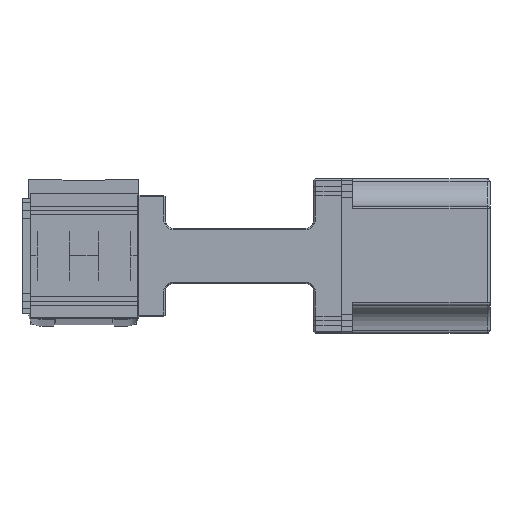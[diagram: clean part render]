
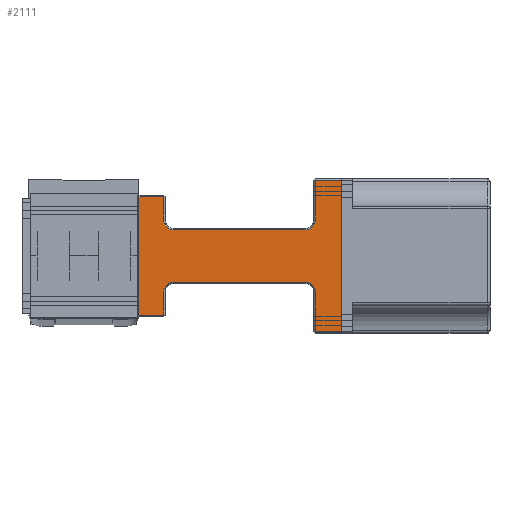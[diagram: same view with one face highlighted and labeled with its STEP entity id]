
A CAD part, top view. The second image highlights one B-rep face of the part: STEP entity #2111.
In plain terms, the highlighted planar face has unit normal (0, 0, 1).
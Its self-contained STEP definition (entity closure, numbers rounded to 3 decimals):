
#2043 = EDGE_LOOP ( 'NONE', ( #2114, #2117, #2112, #2094, #2096, #2099, #2102, #2106, #2169, #2101, #2172, #2091, #2159, #2097, #2164, #2162 ) ) ;
#2048 = VERTEX_POINT ( 'NONE', #7797 ) ;
#2054 = EDGE_CURVE ( 'NONE', #2108, #2109, #7779, .T. ) ;
#2090 = VERTEX_POINT ( 'NONE', #7911 ) ;
#2091 = ORIENTED_EDGE ( 'NONE', *, *, #2176, .T. ) ;
#2092 = EDGE_CURVE ( 'NONE', #2105, #2090, #7907, .T. ) ;
#2093 = EDGE_CURVE ( 'NONE', #2174, #2109, #7910, .T. ) ;
#2094 = ORIENTED_EDGE ( 'NONE', *, *, #2120, .T. ) ;
#2095 = EDGE_CURVE ( 'NONE', #2131, #2116, #7915, .T. ) ;
#2096 = ORIENTED_EDGE ( 'NONE', *, *, #2095, .T. ) ;
#2097 = ORIENTED_EDGE ( 'NONE', *, *, #2175, .T. ) ;
#2099 = ORIENTED_EDGE ( 'NONE', *, *, #2119, .T. ) ;
#2100 = VERTEX_POINT ( 'NONE', #7914 ) ;
#2101 = ORIENTED_EDGE ( 'NONE', *, *, #2170, .T. ) ;
#2102 = ORIENTED_EDGE ( 'NONE', *, *, #2122, .T. ) ;
#2103 = EDGE_CURVE ( 'NONE', #2128, #2121, #7898, .T. ) ;
#2104 = VERTEX_POINT ( 'NONE', #7892 ) ;
#2105 = VERTEX_POINT ( 'NONE', #7900 ) ;
#2106 = ORIENTED_EDGE ( 'NONE', *, *, #2103, .T. ) ;
#2107 = VERTEX_POINT ( 'NONE', #7893 ) ;
#2108 = VERTEX_POINT ( 'NONE', #7888 ) ;
#2109 = VERTEX_POINT ( 'NONE', #7899 ) ;
#2110 = VERTEX_POINT ( 'NONE', #7908 ) ;
#2111 = ADVANCED_FACE ( 'NONE', ( #7948 ), #7887, .F. ) ;
#2112 = ORIENTED_EDGE ( 'NONE', *, *, #2118, .T. ) ;
#2113 = VERTEX_POINT ( 'NONE', #7885 ) ;
#2114 = ORIENTED_EDGE ( 'NONE', *, *, #2054, .F. ) ;
#2115 = EDGE_CURVE ( 'NONE', #2108, #2048, #7946, .T. ) ;
#2116 = VERTEX_POINT ( 'NONE', #7942 ) ;
#2117 = ORIENTED_EDGE ( 'NONE', *, *, #2115, .T. ) ;
#2118 = EDGE_CURVE ( 'NONE', #2048, #2113, #7938, .T. ) ;
#2119 = EDGE_CURVE ( 'NONE', #2116, #2110, #7935, .T. ) ;
#2120 = EDGE_CURVE ( 'NONE', #2113, #2131, #7943, .T. ) ;
#2121 = VERTEX_POINT ( 'NONE', #7933 ) ;
#2122 = EDGE_CURVE ( 'NONE', #2110, #2128, #7920, .T. ) ;
#2128 = VERTEX_POINT ( 'NONE', #7981 ) ;
#2131 = VERTEX_POINT ( 'NONE', #7978 ) ;
#2132 = EDGE_CURVE ( 'NONE', #2121, #2104, #7967, .T. ) ;
#2159 = ORIENTED_EDGE ( 'NONE', *, *, #2092, .T. ) ;
#2162 = ORIENTED_EDGE ( 'NONE', *, *, #2093, .T. ) ;
#2163 = EDGE_CURVE ( 'NONE', #2107, #2174, #8015, .T. ) ;
#2164 = ORIENTED_EDGE ( 'NONE', *, *, #2163, .T. ) ;
#2169 = ORIENTED_EDGE ( 'NONE', *, *, #2132, .T. ) ;
#2170 = EDGE_CURVE ( 'NONE', #2104, #2100, #7954, .T. ) ;
#2171 = VERTEX_POINT ( 'NONE', #7968 ) ;
#2172 = ORIENTED_EDGE ( 'NONE', *, *, #2173, .T. ) ;
#2173 = EDGE_CURVE ( 'NONE', #2100, #2171, #8005, .T. ) ;
#2174 = VERTEX_POINT ( 'NONE', #7994 ) ;
#2175 = EDGE_CURVE ( 'NONE', #2090, #2107, #7988, .T. ) ;
#2176 = EDGE_CURVE ( 'NONE', #2171, #2105, #8006, .T. ) ;
#7779 = LINE ( 'NONE', #7842, #7840 ) ;
#7797 = CARTESIAN_POINT ( 'NONE',  ( 84., 27.5, 1486. ) ) ;
#7839 = DIRECTION ( 'NONE',  ( 0., -1., 0. ) ) ;
#7840 = VECTOR ( 'NONE', #7839, 1000. ) ;
#7842 = CARTESIAN_POINT ( 'NONE',  ( 93.5, -28., 1486. ) ) ;
#7862 = CARTESIAN_POINT ( 'NONE',  ( 29.5, 22., 1486. ) ) ;
#7884 = DIRECTION ( 'NONE',  ( 0., 0., -1. ) ) ;
#7885 = CARTESIAN_POINT ( 'NONE',  ( 84., 13., 1486. ) ) ;
#7887 = PLANE ( 'NONE',  #7891 ) ;
#7888 = CARTESIAN_POINT ( 'NONE',  ( 93.5, 27.5, 1486. ) ) ;
#7889 = DIRECTION ( 'NONE',  ( -1., 0., 0. ) ) ;
#7890 = VECTOR ( 'NONE', #7889, 1000. ) ;
#7891 = AXIS2_PLACEMENT_3D ( 'NONE', #7862, #7945, #7944 ) ;
#7892 = CARTESIAN_POINT ( 'NONE',  ( 20., -21.5, 1486. ) ) ;
#7893 = CARTESIAN_POINT ( 'NONE',  ( 84., -13., 1486. ) ) ;
#7894 = DIRECTION ( 'NONE',  ( -1., 0., 0. ) ) ;
#7895 = VECTOR ( 'NONE', #7894, 1000. ) ;
#7896 = CARTESIAN_POINT ( 'NONE',  ( 29.5, 9.5, 1486. ) ) ;
#7897 = CARTESIAN_POINT ( 'NONE',  ( 29.5, 21.5, 1486. ) ) ;
#7898 = LINE ( 'NONE', #7897, #7890 ) ;
#7899 = CARTESIAN_POINT ( 'NONE',  ( 93.5, -27.5, 1486. ) ) ;
#7900 = CARTESIAN_POINT ( 'NONE',  ( 32.5, -9.5, 1486. ) ) ;
#7901 = DIRECTION ( 'NONE',  ( 1., 0., 0. ) ) ;
#7902 = VECTOR ( 'NONE', #7901, 1000. ) ;
#7903 = AXIS2_PLACEMENT_3D ( 'NONE', #7931, #7884, #7927 ) ;
#7904 = DIRECTION ( 'NONE',  ( 1., 0., 0. ) ) ;
#7905 = VECTOR ( 'NONE', #7904, 1000. ) ;
#7906 = CARTESIAN_POINT ( 'NONE',  ( 29.5, -9.5, 1486. ) ) ;
#7907 = LINE ( 'NONE', #7906, #7905 ) ;
#7908 = CARTESIAN_POINT ( 'NONE',  ( 29., 13., 1486. ) ) ;
#7909 = CARTESIAN_POINT ( 'NONE',  ( 29.5, -27.5, 1486. ) ) ;
#7910 = LINE ( 'NONE', #7909, #7902 ) ;
#7911 = CARTESIAN_POINT ( 'NONE',  ( 80.5, -9.5, 1486. ) ) ;
#7914 = CARTESIAN_POINT ( 'NONE',  ( 29., -21.5, 1486. ) ) ;
#7915 = LINE ( 'NONE', #7896, #7895 ) ;
#7917 = DIRECTION ( 'NONE',  ( 0., 1., 0. ) ) ;
#7918 = VECTOR ( 'NONE', #7917, 1000. ) ;
#7919 = CARTESIAN_POINT ( 'NONE',  ( 29., 22., 1486. ) ) ;
#7920 = LINE ( 'NONE', #7919, #7918 ) ;
#7923 = DIRECTION ( 'NONE',  ( -1., 0., 0. ) ) ;
#7924 = DIRECTION ( 'NONE',  ( 0., 0., -1. ) ) ;
#7927 = DIRECTION ( 'NONE',  ( -1., 0., 0. ) ) ;
#7928 = AXIS2_PLACEMENT_3D ( 'NONE', #7932, #7924, #7923 ) ;
#7929 = DIRECTION ( 'NONE',  ( 0., -1., 0. ) ) ;
#7930 = VECTOR ( 'NONE', #7929, 1000. ) ;
#7931 = CARTESIAN_POINT ( 'NONE',  ( 32.5, 13., 1486. ) ) ;
#7932 = CARTESIAN_POINT ( 'NONE',  ( 80.5, 13., 1486. ) ) ;
#7933 = CARTESIAN_POINT ( 'NONE',  ( 20., 21.5, 1486. ) ) ;
#7935 = CIRCLE ( 'NONE', #7903, 3.5 ) ;
#7937 = CARTESIAN_POINT ( 'NONE',  ( 84., 22., 1486. ) ) ;
#7938 = LINE ( 'NONE', #7937, #7930 ) ;
#7939 = DIRECTION ( 'NONE',  ( -1., 0., 0. ) ) ;
#7940 = VECTOR ( 'NONE', #7939, 1000. ) ;
#7941 = CARTESIAN_POINT ( 'NONE',  ( 29.5, 27.5, 1486. ) ) ;
#7942 = CARTESIAN_POINT ( 'NONE',  ( 32.5, 9.5, 1486. ) ) ;
#7943 = CIRCLE ( 'NONE', #7928, 3.5 ) ;
#7944 = DIRECTION ( 'NONE',  ( -1., 0., 0. ) ) ;
#7945 = DIRECTION ( 'NONE',  ( 0., 0., -1. ) ) ;
#7946 = LINE ( 'NONE', #7941, #7940 ) ;
#7948 = FACE_OUTER_BOUND ( 'NONE', #2043, .T. ) ;
#7953 = CARTESIAN_POINT ( 'NONE',  ( 29.5, -21.5, 1486. ) ) ;
#7954 = LINE ( 'NONE', #7953, #7997 ) ;
#7964 = DIRECTION ( 'NONE',  ( 0., -1., 0. ) ) ;
#7965 = VECTOR ( 'NONE', #7964, 1000. ) ;
#7966 = CARTESIAN_POINT ( 'NONE',  ( 20., -22., 1486. ) ) ;
#7967 = LINE ( 'NONE', #7966, #7965 ) ;
#7968 = CARTESIAN_POINT ( 'NONE',  ( 29., -13., 1486. ) ) ;
#7978 = CARTESIAN_POINT ( 'NONE',  ( 80.5, 9.5, 1486. ) ) ;
#7981 = CARTESIAN_POINT ( 'NONE',  ( 29., 21.5, 1486. ) ) ;
#7988 = CIRCLE ( 'NONE', #7998, 3.5 ) ;
#7990 = DIRECTION ( 'NONE',  ( 0., 1., 0. ) ) ;
#7991 = VECTOR ( 'NONE', #7990, 1000. ) ;
#7992 = CARTESIAN_POINT ( 'NONE',  ( 29., 22., 1486. ) ) ;
#7994 = CARTESIAN_POINT ( 'NONE',  ( 84., -27.5, 1486. ) ) ;
#7995 = AXIS2_PLACEMENT_3D ( 'NONE', #8048, #8041, #8040 ) ;
#7996 = DIRECTION ( 'NONE',  ( 1., 0., 0. ) ) ;
#7997 = VECTOR ( 'NONE', #7996, 1000. ) ;
#7998 = AXIS2_PLACEMENT_3D ( 'NONE', #8046, #8045, #8044 ) ;
#8002 = DIRECTION ( 'NONE',  ( 0., -1., 0. ) ) ;
#8003 = VECTOR ( 'NONE', #8002, 1000. ) ;
#8004 = CARTESIAN_POINT ( 'NONE',  ( 84., 22., 1486. ) ) ;
#8005 = LINE ( 'NONE', #7992, #7991 ) ;
#8006 = CIRCLE ( 'NONE', #7995, 3.5 ) ;
#8015 = LINE ( 'NONE', #8004, #8003 ) ;
#8040 = DIRECTION ( 'NONE',  ( -1., 0., 0. ) ) ;
#8041 = DIRECTION ( 'NONE',  ( 0., 0., -1. ) ) ;
#8044 = DIRECTION ( 'NONE',  ( -1., 0., 0. ) ) ;
#8045 = DIRECTION ( 'NONE',  ( 0., 0., -1. ) ) ;
#8046 = CARTESIAN_POINT ( 'NONE',  ( 80.5, -13., 1486. ) ) ;
#8048 = CARTESIAN_POINT ( 'NONE',  ( 32.5, -13., 1486. ) ) ;
